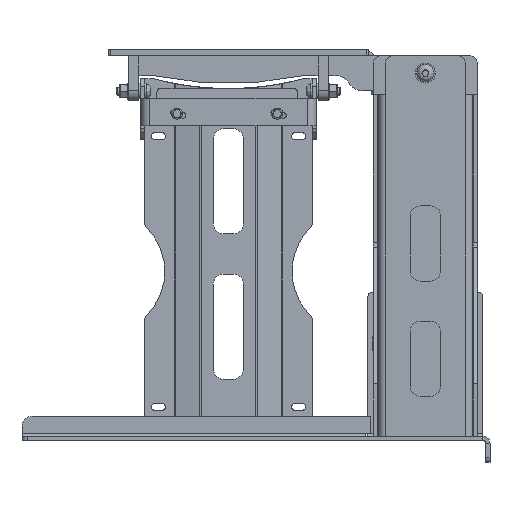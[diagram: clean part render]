
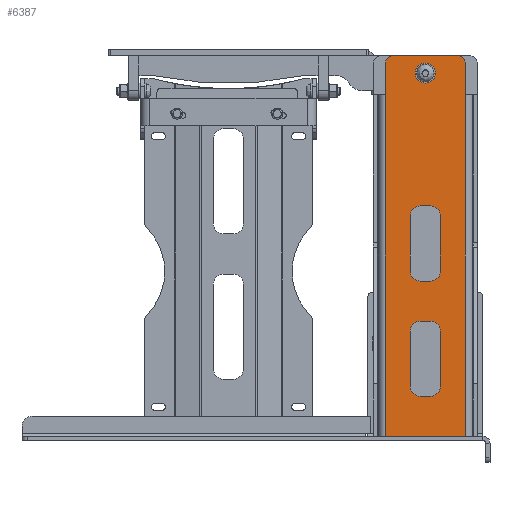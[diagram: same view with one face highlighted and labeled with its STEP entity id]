
A CAD part, front view. The second image highlights one B-rep face of the part: STEP entity #6387.
In plain terms, the highlighted planar face has unit normal (0, -1, 0) as drawn and (0, 1, 0) by its records, which use the part's own axes.
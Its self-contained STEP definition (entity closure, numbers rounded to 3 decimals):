
#6387=ADVANCED_FACE('',(#8755,#8756,#8757,#8758),#8759,.T.);
#8755=FACE_BOUND('',#11563,.T.);
#8756=FACE_BOUND('',#11564,.T.);
#8757=FACE_BOUND('',#11565,.T.);
#8758=FACE_OUTER_BOUND('',#11566,.T.);
#8759=PLANE('',#11567);
#11563=EDGE_LOOP('',(#17213,#17214,#17215,#17216,#17217,#17218,#17219,#17220));
#11564=EDGE_LOOP('',(#17221));
#11565=EDGE_LOOP('',(#17222,#17223,#17224,#17225,#17226,#17227,#17228,#17229));
#11566=EDGE_LOOP('',(#17230,#17231,#17232,#17233,#17234,#17235,#17236,#17237,#17238,#17239,#17240,#17241));
#11567=AXIS2_PLACEMENT_3D('',#17242,#17243,#17244);
#17213=ORIENTED_EDGE('',*,*,#23392,.F.);
#17214=ORIENTED_EDGE('',*,*,#23388,.F.);
#17215=ORIENTED_EDGE('',*,*,#23409,.F.);
#17216=ORIENTED_EDGE('',*,*,#23416,.F.);
#17217=ORIENTED_EDGE('',*,*,#23412,.F.);
#17218=ORIENTED_EDGE('',*,*,#23404,.F.);
#17219=ORIENTED_EDGE('',*,*,#23400,.F.);
#17220=ORIENTED_EDGE('',*,*,#23396,.F.);
#17221=ORIENTED_EDGE('',*,*,#23385,.F.);
#17222=ORIENTED_EDGE('',*,*,#23357,.F.);
#17223=ORIENTED_EDGE('',*,*,#23353,.F.);
#17224=ORIENTED_EDGE('',*,*,#23374,.F.);
#17225=ORIENTED_EDGE('',*,*,#23381,.F.);
#17226=ORIENTED_EDGE('',*,*,#23377,.F.);
#17227=ORIENTED_EDGE('',*,*,#23369,.F.);
#17228=ORIENTED_EDGE('',*,*,#23365,.F.);
#17229=ORIENTED_EDGE('',*,*,#23361,.F.);
#17230=ORIENTED_EDGE('',*,*,#23523,.T.);
#17231=ORIENTED_EDGE('',*,*,#23421,.T.);
#17232=ORIENTED_EDGE('',*,*,#23525,.T.);
#17233=ORIENTED_EDGE('',*,*,#23426,.T.);
#17234=ORIENTED_EDGE('',*,*,#23528,.T.);
#17235=ORIENTED_EDGE('',*,*,#23298,.F.);
#17236=ORIENTED_EDGE('',*,*,#23519,.T.);
#17237=ORIENTED_EDGE('',*,*,#23441,.F.);
#17238=ORIENTED_EDGE('',*,*,#23437,.F.);
#17239=ORIENTED_EDGE('',*,*,#23433,.F.);
#17240=ORIENTED_EDGE('',*,*,#23271,.T.);
#17241=ORIENTED_EDGE('',*,*,#23307,.T.);
#17242=CARTESIAN_POINT('',(150.0,289.0,320.0));
#17243=DIRECTION('',(0.0,1.0,0.0));
#17244=DIRECTION('',(-1.0,0.0,0.0));
#23271=EDGE_CURVE('',#26728,#26729,#26730,.T.);
#23298=EDGE_CURVE('',#26773,#26770,#26775,.T.);
#23307=EDGE_CURVE('',#26729,#26784,#26786,.T.);
#23353=EDGE_CURVE('',#26857,#26860,#26861,.T.);
#23357=EDGE_CURVE('',#26860,#26866,#26867,.T.);
#23361=EDGE_CURVE('',#26866,#26872,#26873,.T.);
#23365=EDGE_CURVE('',#26872,#26878,#26879,.T.);
#23369=EDGE_CURVE('',#26878,#26884,#26885,.T.);
#23374=EDGE_CURVE('',#26890,#26857,#26893,.T.);
#23377=EDGE_CURVE('',#26884,#26896,#26897,.T.);
#23381=EDGE_CURVE('',#26896,#26890,#26902,.T.);
#23385=EDGE_CURVE('',#26907,#26907,#26908,.T.);
#23388=EDGE_CURVE('',#26910,#26913,#26914,.T.);
#23392=EDGE_CURVE('',#26913,#26919,#26920,.T.);
#23396=EDGE_CURVE('',#26919,#26925,#26926,.T.);
#23400=EDGE_CURVE('',#26925,#26931,#26932,.T.);
#23404=EDGE_CURVE('',#26931,#26937,#26938,.T.);
#23409=EDGE_CURVE('',#26943,#26910,#26946,.T.);
#23412=EDGE_CURVE('',#26937,#26949,#26950,.T.);
#23416=EDGE_CURVE('',#26949,#26943,#26955,.T.);
#23421=EDGE_CURVE('',#26963,#26961,#26964,.T.);
#23426=EDGE_CURVE('',#26972,#26970,#26973,.T.);
#23433=EDGE_CURVE('',#26728,#26980,#26981,.T.);
#23437=EDGE_CURVE('',#26980,#26986,#26987,.T.);
#23441=EDGE_CURVE('',#26986,#26992,#26993,.T.);
#23519=EDGE_CURVE('',#26773,#26992,#27094,.T.);
#23523=EDGE_CURVE('',#26784,#26963,#27098,.T.);
#23525=EDGE_CURVE('',#26961,#26972,#27100,.F.);
#23528=EDGE_CURVE('',#26970,#26770,#27103,.F.);
#26728=VERTEX_POINT('',#31959);
#26729=VERTEX_POINT('',#31960);
#26730=LINE('',#31961,#31962);
#26770=VERTEX_POINT('',#32047);
#26773=VERTEX_POINT('',#32051);
#26775=LINE('',#32053,#32054);
#26784=VERTEX_POINT('',#32066);
#26786=LINE('',#32068,#32069);
#26857=VERTEX_POINT('',#32163);
#26860=VERTEX_POINT('',#32167);
#26861=CIRCLE('',#32168,10.0);
#26866=VERTEX_POINT('',#32174);
#26867=LINE('',#32175,#32176);
#26872=VERTEX_POINT('',#32183);
#26873=CIRCLE('',#32184,10.0);
#26878=VERTEX_POINT('',#32190);
#26879=LINE('',#32191,#32192);
#26884=VERTEX_POINT('',#32199);
#26885=CIRCLE('',#32200,10.0);
#26890=VERTEX_POINT('',#32206);
#26893=LINE('',#32210,#32211);
#26896=VERTEX_POINT('',#32215);
#26897=LINE('',#32216,#32217);
#26902=CIRCLE('',#32224,10.0);
#26907=VERTEX_POINT('',#32229);
#26908=CIRCLE('',#32230,5.1);
#26910=VERTEX_POINT('',#32232);
#26913=VERTEX_POINT('',#32236);
#26914=CIRCLE('',#32237,10.0);
#26919=VERTEX_POINT('',#32243);
#26920=LINE('',#32244,#32245);
#26925=VERTEX_POINT('',#32252);
#26926=CIRCLE('',#32253,10.0);
#26931=VERTEX_POINT('',#32259);
#26932=LINE('',#32260,#32261);
#26937=VERTEX_POINT('',#32268);
#26938=CIRCLE('',#32269,10.0);
#26943=VERTEX_POINT('',#32275);
#26946=LINE('',#32279,#32280);
#26949=VERTEX_POINT('',#32284);
#26950=LINE('',#32285,#32286);
#26955=CIRCLE('',#32293,10.0);
#26961=VERTEX_POINT('',#32299);
#26963=VERTEX_POINT('',#32302);
#26964=CIRCLE('',#32303,8.0);
#26970=VERTEX_POINT('',#32310);
#26972=VERTEX_POINT('',#32313);
#26973=CIRCLE('',#32314,8.0);
#26980=VERTEX_POINT('',#32324);
#26981=LINE('',#32325,#32326);
#26986=VERTEX_POINT('',#32333);
#26987=LINE('',#32334,#32335);
#26992=VERTEX_POINT('',#32342);
#26993=LINE('',#32343,#32344);
#27094=LINE('',#32483,#32484);
#27098=LINE('',#32490,#32491);
#27100=LINE('',#32493,#32494);
#27103=LINE('',#32498,#32499);
#31959=CARTESIAN_POINT('',(140.0,289.0,320.0));
#31960=CARTESIAN_POINT('',(110.0,289.0,320.0));
#31961=CARTESIAN_POINT('',(150.0,289.0,320.0));
#31962=VECTOR('',#38522,1.0);
#32047=CARTESIAN_POINT('',(190.0,289.0,661.0));
#32051=CARTESIAN_POINT('',(190.0,289.0,320.0));
#32053=CARTESIAN_POINT('',(190.0,289.0,320.0));
#32054=VECTOR('',#38549,1.0);
#32066=CARTESIAN_POINT('',(110.0,289.0,661.0));
#32068=CARTESIAN_POINT('',(110.0,289.0,320.0));
#32069=VECTOR('',#38559,1.0);
#32163=CARTESIAN_POINT('',(165.0,289.0,485.0));
#32167=CARTESIAN_POINT('',(155.0,289.0,475.0));
#32168=AXIS2_PLACEMENT_3D('',#38626,#38627,#38628);
#32174=CARTESIAN_POINT('',(145.0,289.0,475.0));
#32175=CARTESIAN_POINT('',(150.0,289.0,475.0));
#32176=VECTOR('',#38633,1.0);
#32183=CARTESIAN_POINT('',(135.0,289.0,485.0));
#32184=AXIS2_PLACEMENT_3D('',#38636,#38637,#38638);
#32190=CARTESIAN_POINT('',(135.0,289.0,540.0));
#32191=CARTESIAN_POINT('',(135.0,289.0,512.5));
#32192=VECTOR('',#38643,1.0);
#32199=CARTESIAN_POINT('',(145.0,289.0,550.0));
#32200=AXIS2_PLACEMENT_3D('',#38646,#38647,#38648);
#32206=CARTESIAN_POINT('',(165.0,289.0,540.0));
#32210=CARTESIAN_POINT('',(165.0,289.0,512.5));
#32211=VECTOR('',#38654,1.0);
#32215=CARTESIAN_POINT('',(155.0,289.0,550.0));
#32216=CARTESIAN_POINT('',(150.0,289.0,550.0));
#32217=VECTOR('',#38656,1.0);
#32224=AXIS2_PLACEMENT_3D('',#38659,#38660,#38661);
#32229=CARTESIAN_POINT('',(144.9,289.0,682.5));
#32230=AXIS2_PLACEMENT_3D('',#38668,#38669,#38670);
#32232=CARTESIAN_POINT('',(165.0,289.0,370.0));
#32236=CARTESIAN_POINT('',(155.0,289.0,360.0));
#32237=AXIS2_PLACEMENT_3D('',#38672,#38673,#38674);
#32243=CARTESIAN_POINT('',(145.0,289.0,360.0));
#32244=CARTESIAN_POINT('',(150.0,289.0,360.0));
#32245=VECTOR('',#38679,1.0);
#32252=CARTESIAN_POINT('',(135.0,289.0,370.0));
#32253=AXIS2_PLACEMENT_3D('',#38682,#38683,#38684);
#32259=CARTESIAN_POINT('',(135.0,289.0,425.0));
#32260=CARTESIAN_POINT('',(135.0,289.0,397.5));
#32261=VECTOR('',#38689,1.0);
#32268=CARTESIAN_POINT('',(145.0,289.0,435.0));
#32269=AXIS2_PLACEMENT_3D('',#38692,#38693,#38694);
#32275=CARTESIAN_POINT('',(165.0,289.0,425.0));
#32279=CARTESIAN_POINT('',(165.0,289.0,397.5));
#32280=VECTOR('',#38700,1.0);
#32284=CARTESIAN_POINT('',(155.0,289.0,435.0));
#32285=CARTESIAN_POINT('',(150.0,289.0,435.0));
#32286=VECTOR('',#38702,1.0);
#32293=AXIS2_PLACEMENT_3D('',#38705,#38706,#38707);
#32299=CARTESIAN_POINT('',(118.0,289.0,700.0));
#32302=CARTESIAN_POINT('',(110.0,289.0,692.0));
#32303=AXIS2_PLACEMENT_3D('',#38715,#38716,#38717);
#32310=CARTESIAN_POINT('',(190.0,289.0,692.0));
#32313=CARTESIAN_POINT('',(182.0,289.0,700.0));
#32314=AXIS2_PLACEMENT_3D('',#38723,#38724,#38725);
#32324=CARTESIAN_POINT('',(140.0,289.0,317.0));
#32325=CARTESIAN_POINT('',(140.0,289.0,320.0));
#32326=VECTOR('',#38729,1.0);
#32333=CARTESIAN_POINT('',(160.0,289.0,317.0));
#32334=CARTESIAN_POINT('',(140.0,289.0,317.0));
#32335=VECTOR('',#38732,1.0);
#32342=CARTESIAN_POINT('',(160.0,289.0,320.0));
#32343=CARTESIAN_POINT('',(160.0,289.0,317.0));
#32344=VECTOR('',#38735,1.0);
#32483=CARTESIAN_POINT('',(150.0,289.0,320.0));
#32484=VECTOR('',#38810,1.0);
#32490=CARTESIAN_POINT('',(110.0,289.0,320.0));
#32491=VECTOR('',#38813,1.0);
#32493=CARTESIAN_POINT('',(150.0,289.0,700.0));
#32494=VECTOR('',#38814,1.0);
#32498=CARTESIAN_POINT('',(190.0,289.0,320.0));
#32499=VECTOR('',#38816,1.0);
#38522=DIRECTION('',(-1.0,0.0,0.0));
#38549=DIRECTION('',(0.,0.0,1.0));
#38559=DIRECTION('',(0.0,0.0,1.0));
#38626=CARTESIAN_POINT('',(155.0,289.0,485.0));
#38627=DIRECTION('',(0.0,1.0,0.0));
#38628=DIRECTION('',(-1.0,0.0,0.0));
#38633=DIRECTION('',(-1.0,0.0,0.0));
#38636=CARTESIAN_POINT('',(145.0,289.0,485.0));
#38637=DIRECTION('',(0.0,1.0,0.0));
#38638=DIRECTION('',(-1.0,0.0,0.0));
#38643=DIRECTION('',(0.,0.0,1.0));
#38646=CARTESIAN_POINT('',(145.0,289.0,540.0));
#38647=DIRECTION('',(0.0,1.0,0.0));
#38648=DIRECTION('',(-1.0,0.0,0.0));
#38654=DIRECTION('',(0.,0.0,-1.0));
#38656=DIRECTION('',(1.0,0.0,0.));
#38659=CARTESIAN_POINT('',(155.0,289.0,540.0));
#38660=DIRECTION('',(0.0,1.0,0.0));
#38661=DIRECTION('',(-1.0,0.0,0.0));
#38668=CARTESIAN_POINT('',(150.0,289.0,682.5));
#38669=DIRECTION('',(0.0,1.0,0.0));
#38670=DIRECTION('',(-1.0,0.0,0.0));
#38672=CARTESIAN_POINT('',(155.0,289.0,370.0));
#38673=DIRECTION('',(0.0,1.0,0.0));
#38674=DIRECTION('',(-1.0,0.0,0.0));
#38679=DIRECTION('',(-1.0,0.0,0.0));
#38682=CARTESIAN_POINT('',(145.0,289.0,370.0));
#38683=DIRECTION('',(0.0,1.0,0.0));
#38684=DIRECTION('',(-1.0,0.0,0.0));
#38689=DIRECTION('',(0.,0.0,1.0));
#38692=CARTESIAN_POINT('',(145.0,289.0,425.0));
#38693=DIRECTION('',(0.0,1.0,0.0));
#38694=DIRECTION('',(-1.0,0.0,0.0));
#38700=DIRECTION('',(0.,0.0,-1.0));
#38702=DIRECTION('',(1.0,0.0,0.));
#38705=CARTESIAN_POINT('',(155.0,289.0,425.0));
#38706=DIRECTION('',(0.0,1.0,0.0));
#38707=DIRECTION('',(-1.0,0.0,0.0));
#38715=CARTESIAN_POINT('',(118.0,289.0,692.0));
#38716=DIRECTION('',(0.0,1.0,0.0));
#38717=DIRECTION('',(0.0,0.0,1.0));
#38723=CARTESIAN_POINT('',(182.0,289.0,692.0));
#38724=DIRECTION('',(0.0,1.0,0.0));
#38725=DIRECTION('',(0.0,0.0,1.0));
#38729=DIRECTION('',(0.0,0.,-1.0));
#38732=DIRECTION('',(1.0,0.0,0.0));
#38735=DIRECTION('',(0.0,0.,1.0));
#38810=DIRECTION('',(-1.0,0.0,0.0));
#38813=DIRECTION('',(0.0,0.0,1.0));
#38814=DIRECTION('',(-1.0,0.0,0.0));
#38816=DIRECTION('',(0.0,0.0,1.0));
